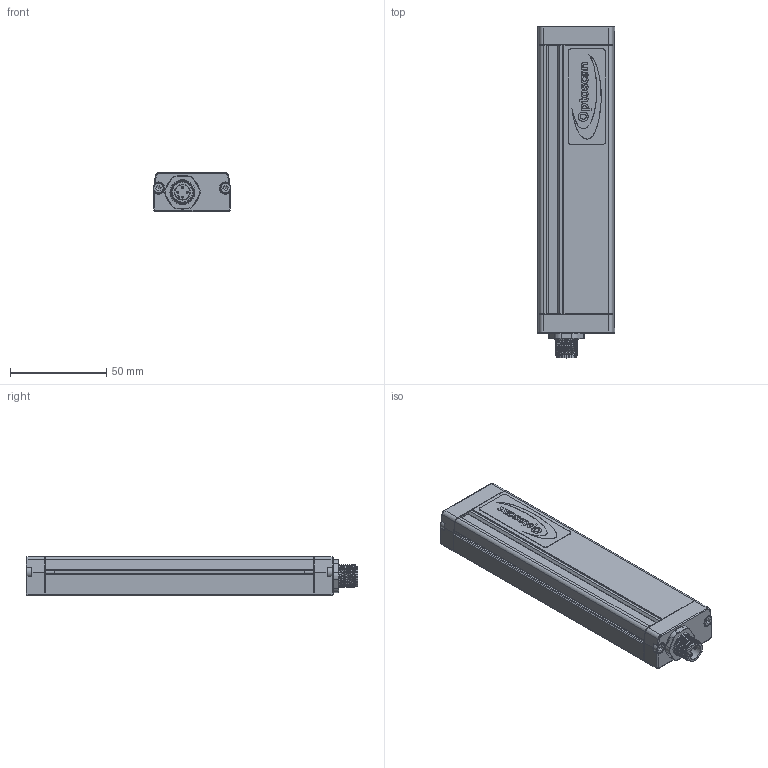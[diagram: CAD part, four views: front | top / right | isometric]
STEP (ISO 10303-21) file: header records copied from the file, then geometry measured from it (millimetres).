
FILE_DESCRIPTION(/* description */ (''),/* implementation_level */ '2;1');
FILE_NAME(/* name */ 'C:\Users\Andrea\SynologyDrive\Optoscan\Libreria Componenti\00 - Barriere\Barriera sorgente\Argo_140_TX.stp',/* time_stamp */ '2022-06-30T15:32:45+02:00',/* author */ ('Andrea'),/* organization */ (''),/* preprocessor_version */ 'ST-DEVELOPER v18.1',/* originating_system */ 'Autodesk Inventor 2022',/* authorisation */ '');
FILE_SCHEMA (('AUTOMOTIVE_DESIGN { 1 0 10303 214 3 1 1 }'));
Length unit declared in the file: millimetre
Products named in the file (1): Argo_140_TX
Bounding box: 40.5 x 172.8 x 20.75 mm (x, y, z)
Volume: 38459.3 mm3; surface area: 46563.1 mm2
Topology: 1 solids, 2 shells, 757 faces, 2033 edges, 1287 vertices
Faces by surface type: plane 338, cylinder 216, bspline 115, torus 74, cone 8, sphere 6
Full cylindrical faces by diameter (mm): 1 x12, 1.2 x4, 2.459 x4, 2.5 x4, 3 x4, 3.5 x4, 5.5 x4, 8 x1, 10 x1, 10.5 x2, 11.75 x8, 12 x1, 12.3 x3, 14.5 x1, 16.7 x1, 17.5 x1
Entity records: 30483 total; most frequent: CARTESIAN_POINT 11236, ORIENTED_EDGE 4050, DIRECTION 3531, EDGE_CURVE 2025, VERTEX_POINT 1287, AXIS2_PLACEMENT_3D 1230, LINE 1071, VECTOR 1071
